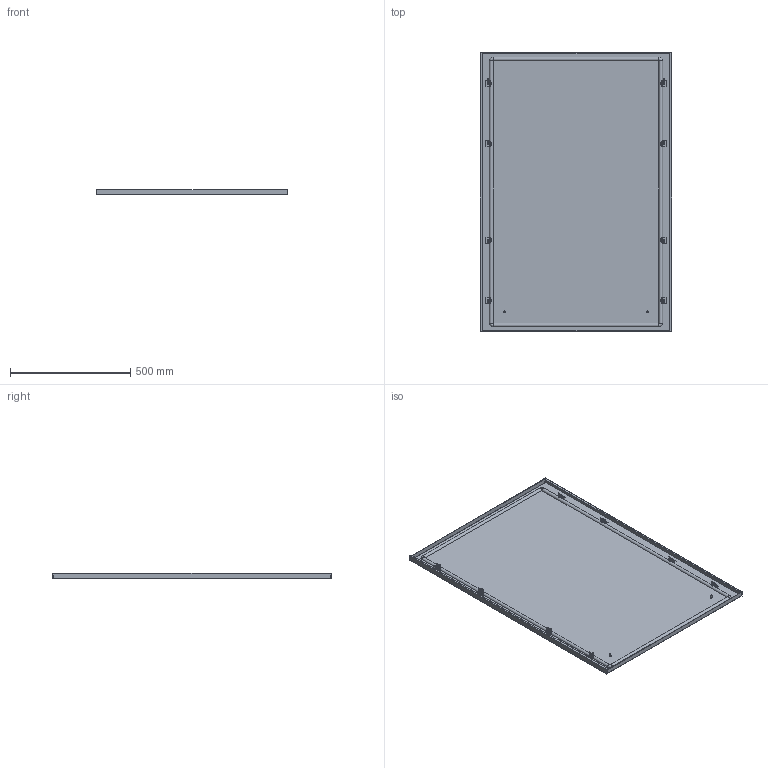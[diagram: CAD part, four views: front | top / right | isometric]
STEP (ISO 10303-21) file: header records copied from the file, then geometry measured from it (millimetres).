
FILE_DESCRIPTION(('Open CASCADE Model'),'2;1');
FILE_NAME('Open CASCADE Shape Model','2025-02-07T16:30:48',('Author'),( 'Open CASCADE'),'Open CASCADE STEP processor 7.8','Open CASCADE 7.8' ,'Unknown');
FILE_SCHEMA(('AUTOMOTIVE_DESIGN { 1 0 10303 214 1 1 1 1 }'));
Length unit declared in the file: millimetre
Products named in the file (10): Compound1; Compound2; Compound3; Solid1; Solid2; Solid3; Solid4; Solid5; Solid6; Solid7
Assembly tree (40 placements, depth 4):
  Compound1
    Compound2
      Compound3
        Solid1
        Solid2  x4
      Solid3
    Solid4  x8
    Solid5  x8
    Solid6  x8
    Solid7  x8
Bounding box: 794 x 1155 x 23.8 mm (x, y, z)
Volume: 1859869.4 mm3; surface area: 2204187.8 mm2
Topology: 38 solids, 38 shells, 1655 faces, 4040 edges, 2460 vertices
Faces by surface type: plane 1043, cone 308, cylinder 268, torus 26, bspline 8, revolution 2
Full cylindrical faces by diameter (mm): 5 x16, 6 x132, 7.5 x4, 8 x16, 10 x8, 11.57 x8
Entity records: 7801 total; most frequent: CARTESIAN_POINT 1491, DIRECTION 1263, ORIENTED_EDGE 1244, EDGE_CURVE 622, AXIS2_PLACEMENT_3D 426, LINE 409, VECTOR 409, VERTEX_POINT 387
